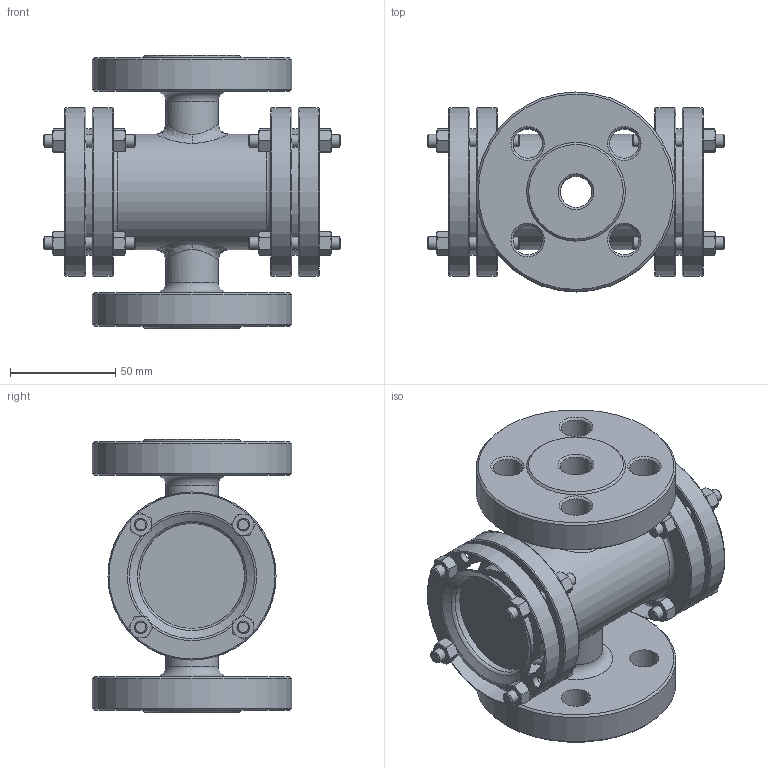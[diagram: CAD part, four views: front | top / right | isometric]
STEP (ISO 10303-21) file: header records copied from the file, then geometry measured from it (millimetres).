
FILE_DESCRIPTION(('STEP AP242'), '1');
FILE_NAME('SG2-35S-F Ñòåêëî ñìîòðîâîå DN.ru Äó15 Ðó25', '', ('UNSPECIFIED'), ('UNSPECIFIED'), 'C3D Converter', 'C3D Toolkit', '');
FILE_SCHEMA(('AP242_MANAGED_MODEL_BASED_3D_ENGINEERING_MIM_LF { 1 0 10303 442 1 1 4 }'));
Length unit declared in the file: millimetre
Products named in the file (1): SG2-35S-F
Bounding box: 141.5 x 95 x 130 mm (x, y, z)
Volume: 403977.9 mm3; surface area: 117290.3 mm2
Topology: 1 solids, 1 shells, 531 faces, 1240 edges, 745 vertices
Faces by surface type: cone 226, plane 203, cylinder 55, bspline 31, torus 16
Full cylindrical faces by diameter (mm): 6 x24, 14 x8, 15 x2, 25 x2, 50 x3, 55 x1, 60 x2, 80 x4, 95 x2
Entity records: 30702 total; most frequent: CARTESIAN_POINT 17824, ORIENTED_EDGE 2270, DIRECTION 2154, EDGE_CURVE 1135, AXIS2_PLACEMENT_3D 984, VERTEX_POINT 739, EDGE_LOOP 698, FACE_BOUND 576
